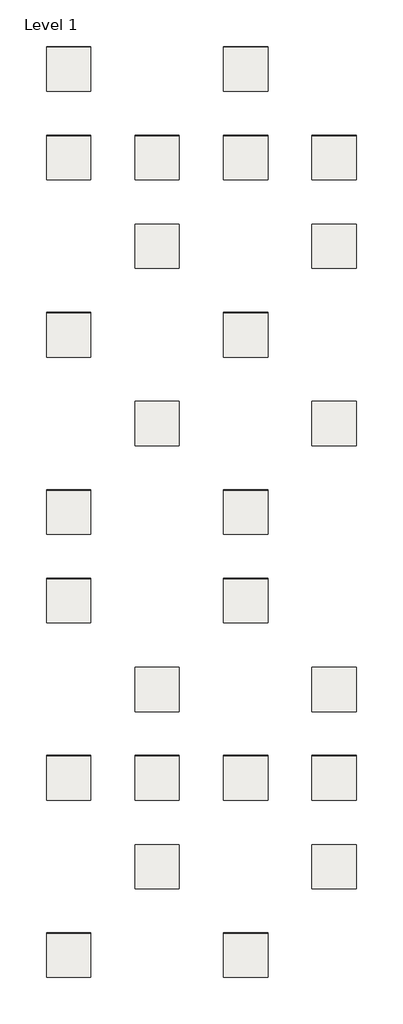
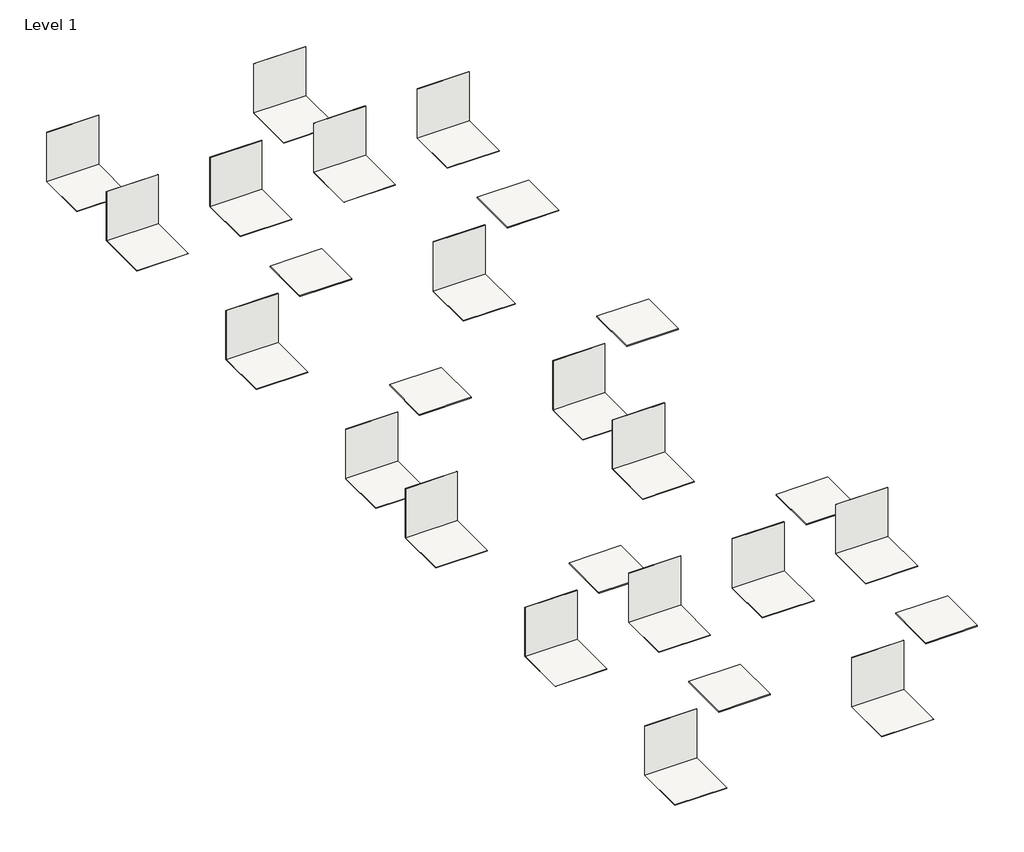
# One storey: 44 coverings.
"""IFC4 building model written with IfcOpenShell, lengths in millimetres."""

from ifc_helpers import new_model, si_unit, frame, origin, origin_with_axes, place, context, project, spatial, polyline, outline, extrude, element, save

model = new_model("IFC4")

# Units and contexts
model_context = context("Model", 3, world=origin())
ifc_project = project(units=[si_unit("LENGTHUNIT", "METRE", prefix="MILLI")], contexts=[model_context])

# Site, building, storey
site = spatial("IfcSite", under=ifc_project)
building = spatial("IfcBuilding", under=site)
storey = spatial("IfcBuildingStorey", under=building, Name="Level 1", Elevation=0.0)

# Coverings
placement = place(None, origin())
element("IfcCovering", 1, ObjectType="REVIGRES-LIMESTONE-BASE-29,5x59,2-RECT-MIST", at=placement, inside=storey, context=model_context, shape_type="SweptSolid", body=[
    extrude(outline(polyline([(-20577.1745975, 3937.5691029), (-21577.1745975, 3937.5691029), (-21577.1745975, 3946.0691029), (-20577.1745975, 3946.0691029), (-20577.1745975, 3937.5691029)])), origin_with_axes(), (0.0, 0.0, 1.0), 1000.0),
])
element("IfcCovering", 2, ObjectType="REVIGRES-LIMESTONE-BASE-29,5x59,2-RECT-MIST", at=placement, inside=storey, context=model_context, shape_type="SweptSolid", body=[
    extrude(outline(polyline([(-20577.1745975, 3937.5691029), (-20577.1745975, 2937.5691029), (-21577.1745975, 2937.5691029), (-21577.1745975, 3937.5691029), (-20577.1745975, 3937.5691029)])), frame((0.0, 0.0, -8.5), z_axis=(0.0, 0.0, 1.0), x_axis=(1.0, 0.0, 0.0)), (0.0, 0.0, 1.0), 8.5),
])
element("IfcCovering", 3, ObjectType="REVIGRES-LIMESTONE-BASE-59,2x59,2-RECT-MIST", at=placement, inside=storey, context=model_context, shape_type="SweptSolid", body=[
    extrude(outline(polyline([(-20577.1745975, 1937.5691029), (-21577.1745975, 1937.5691029), (-21577.1745975, 1946.0691029), (-20577.1745975, 1946.0691029), (-20577.1745975, 1937.5691029)])), origin_with_axes(), (0.0, 0.0, 1.0), 1000.0),
])
element("IfcCovering", 4, ObjectType="REVIGRES-LIMESTONE-BASE-59,2x59,2-RECT-MIST", at=placement, inside=storey, context=model_context, shape_type="SweptSolid", body=[
    extrude(outline(polyline([(-20577.1745975, 1937.5691029), (-20577.1745975, 937.5691029), (-21577.1745975, 937.5691029), (-21577.1745975, 1937.5691029), (-20577.1745975, 1937.5691029)])), frame((0.0, 0.0, -8.5), z_axis=(0.0, 0.0, 1.0), x_axis=(1.0, 0.0, 0.0)), (0.0, 0.0, 1.0), 8.5),
])
element("IfcCovering", 5, ObjectType="REVIGRES-LIMESTONE-BASE-44,35x88,9-RECT-MIST", at=placement, inside=storey, context=model_context, shape_type="SweptSolid", body=[
    extrude(outline(polyline([(-20577.1745975, -6063.4308971), (-21577.1745975, -6063.4308971), (-21577.1745975, -6052.9308971), (-20577.1745975, -6052.9308971), (-20577.1745975, -6063.4308971)])), origin_with_axes(), (0.0, 0.0, 1.0), 1000.0),
])
element("IfcCovering", 6, ObjectType="REVIGRES-LIMESTONE-BASE-44,35x88,9-RECT-MIST", at=placement, inside=storey, context=model_context, shape_type="SweptSolid", body=[
    extrude(outline(polyline([(-20577.1745975, -6063.4308971), (-20577.1745975, -7062.4308971), (-21577.1745975, -7062.4308971), (-21577.1745975, -6063.4308971), (-20577.1745975, -6063.4308971)])), frame((0.0, 0.0, -10.5), z_axis=(0.0, 0.0, 1.0), x_axis=(1.0, 0.0, 0.0)), (0.0, 0.0, 1.0), 10.5),
])
element("IfcCovering", 7, ObjectType="REVIGRES-LIMESTONE-BASE-88,9x88,9-RECT-MIST", at=placement, inside=storey, context=model_context, shape_type="SweptSolid", body=[
    extrude(outline(polyline([(-20577.1745975, -8063.4308971), (-21577.1745975, -8063.4308971), (-21577.1745975, -8052.9308971), (-20577.1745975, -8052.9308971), (-20577.1745975, -8063.4308971)])), origin_with_axes(), (0.0, 0.0, 1.0), 1000.0),
])
element("IfcCovering", 8, ObjectType="REVIGRES-LIMESTONE-BASE-88,9x88,9-RECT-MIST", at=placement, inside=storey, context=model_context, shape_type="SweptSolid", body=[
    extrude(outline(polyline([(-20577.1745975, -8063.4308971), (-20577.1745975, -9063.0808971), (-21577.1745975, -9063.0808971), (-21577.1745975, -8063.4308971), (-20577.1745975, -8063.4308971)])), frame((0.0, 0.0, -10.5), z_axis=(0.0, 0.0, 1.0), x_axis=(1.0, 0.0, 0.0)), (0.0, 0.0, 1.0), 10.5),
])
element("IfcCovering", 9, ObjectType="REVIGRES-LIMESTONE-BASE-59,2x118,6-RECT-MIST", at=placement, inside=storey, context=model_context, shape_type="SweptSolid", body=[
    extrude(outline(polyline([(-20577.1745975, -2063.0808971), (-21577.1745975, -2063.0808971), (-21577.1745975, -2053.2808971), (-20577.1745975, -2053.2808971), (-20577.1745975, -2063.0808971)])), origin_with_axes(), (0.0, 0.0, 1.0), 1000.0),
])
element("IfcCovering", 10, ObjectType="REVIGRES-LIMESTONE-BASE-59,2x118,6-RECT-MIST", at=placement, inside=storey, context=model_context, shape_type="SweptSolid", body=[
    extrude(outline(polyline([(-20577.1745975, -2063.0808971), (-20577.1745975, -3062.4308971), (-21577.1745975, -3062.4308971), (-21577.1745975, -2063.0808971), (-20577.1745975, -2063.0808971)])), frame((0.0, 0.0, -9.8), z_axis=(0.0, 0.0, 1.0), x_axis=(1.0, 0.0, 0.0)), (0.0, 0.0, 1.0), 9.8),
])
element("IfcCovering", 11, ObjectType="REVIGRES-LIMESTONE-BASE-29,5x59,2-RECT-SAND", at=placement, inside=storey, context=model_context, shape_type="SweptSolid", body=[
    extrude(outline(polyline([(-16577.1745975, 3937.5691029), (-17577.1745975, 3937.5691029), (-17577.1745975, 3946.0691029), (-16577.1745975, 3946.0691029), (-16577.1745975, 3937.5691029)])), origin_with_axes(), (0.0, 0.0, 1.0), 1000.0),
])
element("IfcCovering", 12, ObjectType="REVIGRES-LIMESTONE-BASE-29,5x59,2-RECT-SAND", at=placement, inside=storey, context=model_context, shape_type="SweptSolid", body=[
    extrude(outline(polyline([(-16577.1745975, 3937.5691029), (-16577.1745975, 2937.5691029), (-17577.1745975, 2937.5691029), (-17577.1745975, 3937.5691029), (-16577.1745975, 3937.5691029)])), frame((0.0, 0.0, -8.5), z_axis=(0.0, 0.0, 1.0), x_axis=(1.0, 0.0, 0.0)), (0.0, 0.0, 1.0), 8.5),
])
element("IfcCovering", 13, ObjectType="REVIGRES-LIMESTONE-BASE-59,2x59,2-RECT-SAND", at=placement, inside=storey, context=model_context, shape_type="SweptSolid", body=[
    extrude(outline(polyline([(-16577.1745975, 1937.5691029), (-17577.1745975, 1937.5691029), (-17577.1745975, 1946.0691029), (-16577.1745975, 1946.0691029), (-16577.1745975, 1937.5691029)])), origin_with_axes(), (0.0, 0.0, 1.0), 1000.0),
])
element("IfcCovering", 14, ObjectType="REVIGRES-LIMESTONE-BASE-59,2x59,2-RECT-SAND", at=placement, inside=storey, context=model_context, shape_type="SweptSolid", body=[
    extrude(outline(polyline([(-16577.1745975, 1937.5691029), (-16577.1745975, 937.5691029), (-17577.1745975, 937.5691029), (-17577.1745975, 1937.5691029), (-16577.1745975, 1937.5691029)])), frame((0.0, 0.0, -8.5), z_axis=(0.0, 0.0, 1.0), x_axis=(1.0, 0.0, 0.0)), (0.0, 0.0, 1.0), 8.5),
])
element("IfcCovering", 15, ObjectType="REVIGRES-LIMESTONE-BASE-44,35x88,9-RECT-SAND", at=placement, inside=storey, context=model_context, shape_type="SweptSolid", body=[
    extrude(outline(polyline([(-16577.1745975, -6063.4308971), (-17577.1745975, -6063.4308971), (-17577.1745975, -6052.9308971), (-16577.1745975, -6052.9308971), (-16577.1745975, -6063.4308971)])), origin_with_axes(), (0.0, 0.0, 1.0), 1000.0),
])
element("IfcCovering", 16, ObjectType="REVIGRES-LIMESTONE-BASE-44,35x88,9-RECT-SAND", at=placement, inside=storey, context=model_context, shape_type="SweptSolid", body=[
    extrude(outline(polyline([(-16577.1745975, -6063.4308971), (-16577.1745975, -7062.4308971), (-17577.1745975, -7062.4308971), (-17577.1745975, -6063.4308971), (-16577.1745975, -6063.4308971)])), frame((0.0, 0.0, -10.5), z_axis=(0.0, 0.0, 1.0), x_axis=(1.0, 0.0, 0.0)), (0.0, 0.0, 1.0), 10.5),
])
element("IfcCovering", 17, ObjectType="REVIGRES-LIMESTONE-BASE-88,9x88,9-RECT-SAND", at=placement, inside=storey, context=model_context, shape_type="SweptSolid", body=[
    extrude(outline(polyline([(-16577.1745975, -8063.4308971), (-17577.1745975, -8063.4308971), (-17577.1745975, -8052.9308971), (-16577.1745975, -8052.9308971), (-16577.1745975, -8063.4308971)])), origin_with_axes(), (0.0, 0.0, 1.0), 1000.0),
])
element("IfcCovering", 18, ObjectType="REVIGRES-LIMESTONE-BASE-88,9x88,9-RECT-SAND", at=placement, inside=storey, context=model_context, shape_type="SweptSolid", body=[
    extrude(outline(polyline([(-16577.1745975, -8063.4308971), (-16577.1745975, -9063.0808971), (-17577.1745975, -9063.0808971), (-17577.1745975, -8063.4308971), (-16577.1745975, -8063.4308971)])), frame((0.0, 0.0, -10.5), z_axis=(0.0, 0.0, 1.0), x_axis=(1.0, 0.0, 0.0)), (0.0, 0.0, 1.0), 10.5),
])
element("IfcCovering", 19, ObjectType="REVIGRES-LIMESTONE-BASE-59,2x118,6-RECT-SAND", at=placement, inside=storey, context=model_context, shape_type="SweptSolid", body=[
    extrude(outline(polyline([(-16577.1745975, -2063.0808971), (-17577.1745975, -2063.0808971), (-17577.1745975, -2053.2808971), (-16577.1745975, -2053.2808971), (-16577.1745975, -2063.0808971)])), origin_with_axes(), (0.0, 0.0, 1.0), 1000.0),
])
element("IfcCovering", 20, ObjectType="REVIGRES-LIMESTONE-BASE-59,2x118,6-RECT-SAND", at=placement, inside=storey, context=model_context, shape_type="SweptSolid", body=[
    extrude(outline(polyline([(-16577.1745975, -2063.0808971), (-16577.1745975, -3062.4308971), (-17577.1745975, -3062.4308971), (-17577.1745975, -2063.0808971), (-16577.1745975, -2063.0808971)])), frame((0.0, 0.0, -9.8), z_axis=(0.0, 0.0, 1.0), x_axis=(1.0, 0.0, 0.0)), (0.0, 0.0, 1.0), 9.8),
])
element("IfcCovering", 21, ObjectType="REVIGRES-LIMESTONE-BASE-59,2x59,2-ANTISLIPRECT-SAND", at=placement, inside=storey, context=model_context, shape_type="SweptSolid", body=[
    extrude(outline(polyline([(-14577.1745975, 1937.5691029), (-15577.1745975, 1937.5691029), (-15577.1745975, 1946.0691029), (-14577.1745975, 1946.0691029), (-14577.1745975, 1937.5691029)])), origin_with_axes(), (0.0, 0.0, 1.0), 1000.0),
])
element("IfcCovering", 22, ObjectType="REVIGRES-LIMESTONE-BASE-59,2x59,2-ANTISLIPRECT-SAND", at=placement, inside=storey, context=model_context, shape_type="SweptSolid", body=[
    extrude(outline(polyline([(-14577.1745975, 1937.5691029), (-14577.1745975, 937.5691029), (-15577.1745975, 937.5691029), (-15577.1745975, 1937.5691029), (-14577.1745975, 1937.5691029)])), frame((0.0, 0.0, -8.5), z_axis=(0.0, 0.0, 1.0), x_axis=(1.0, 0.0, 0.0)), (0.0, 0.0, 1.0), 8.5),
])
element("IfcCovering", 23, ObjectType="REVIGRES-LIMESTONE-BASE-59,2x59,2-ANTISLIPRECT-MIST", at=placement, inside=storey, context=model_context, shape_type="SweptSolid", body=[
    extrude(outline(polyline([(-18577.1745975, 1937.5691029), (-19577.1745975, 1937.5691029), (-19577.1745975, 1946.0691029), (-18577.1745975, 1946.0691029), (-18577.1745975, 1937.5691029)])), origin_with_axes(), (0.0, 0.0, 1.0), 1000.0),
])
element("IfcCovering", 24, ObjectType="REVIGRES-LIMESTONE-BASE-59,2x59,2-ANTISLIPRECT-MIST", at=placement, inside=storey, context=model_context, shape_type="SweptSolid", body=[
    extrude(outline(polyline([(-18577.1745975, 1937.5691029), (-18577.1745975, 937.5691029), (-19577.1745975, 937.5691029), (-19577.1745975, 1937.5691029), (-18577.1745975, 1937.5691029)])), frame((0.0, 0.0, -8.5), z_axis=(0.0, 0.0, 1.0), x_axis=(1.0, 0.0, 0.0)), (0.0, 0.0, 1.0), 8.5),
])
element("IfcCovering", 25, ObjectType="REVIGRES-LIMESTONE-BASE-118,6x118,6-RECT-MIST", at=placement, inside=storey, context=model_context, shape_type="SweptSolid", body=[
    extrude(outline(polyline([(-20577.1745975, -12062.6808971), (-21577.1745975, -12062.6808971), (-21577.1745975, -12053.6808971), (-20577.1745975, -12053.6808971), (-20577.1745975, -12062.6808971)])), origin_with_axes(), (0.0, 0.0, 1.0), 1000.0),
])
element("IfcCovering", 26, ObjectType="REVIGRES-LIMESTONE-BASE-118,6x118,6-RECT-MIST", at=placement, inside=storey, context=model_context, shape_type="SweptSolid", body=[
    extrude(outline(polyline([(-20577.1745975, -12062.6808971), (-20577.1745975, -13063.0808971), (-21577.1745975, -13063.0808971), (-21577.1745975, -12062.6808971), (-20577.1745975, -12062.6808971)])), frame((0.0, 0.0, -9.0), z_axis=(0.0, 0.0, 1.0), x_axis=(1.0, 0.0, 0.0)), (0.0, 0.0, 1.0), 9.0),
])
element("IfcCovering", 27, ObjectType="REVIGRES-LIMESTONE-BASE-118,6x118,6-RECT-SAND", at=placement, inside=storey, context=model_context, shape_type="SweptSolid", body=[
    extrude(outline(polyline([(-16577.1745975, -12062.6808971), (-17577.1745975, -12062.6808971), (-17577.1745975, -12053.6808971), (-16577.1745975, -12053.6808971), (-16577.1745975, -12062.6808971)])), origin_with_axes(), (0.0, 0.0, 1.0), 1000.0),
])
element("IfcCovering", 28, ObjectType="REVIGRES-LIMESTONE-BASE-118,6x118,6-RECT-SAND", at=placement, inside=storey, context=model_context, shape_type="SweptSolid", body=[
    extrude(outline(polyline([(-16577.1745975, -12062.6808971), (-16577.1745975, -13063.0808971), (-17577.1745975, -13063.0808971), (-17577.1745975, -12062.6808971), (-16577.1745975, -12062.6808971)])), frame((0.0, 0.0, -9.0), z_axis=(0.0, 0.0, 1.0), x_axis=(1.0, 0.0, 0.0)), (0.0, 0.0, 1.0), 9.0),
])
element("IfcCovering", 29, ObjectType="REVIGRES-LIMESTONE-BASE-118,6x277,8-RECT-MIST", at=placement, inside=storey, context=model_context, shape_type="SweptSolid", body=[
    extrude(outline(polyline([(-20577.1745975, -16061.1808971), (-21577.1745975, -16061.1808971), (-21577.1745975, -16055.1808971), (-20577.1745975, -16055.1808971), (-20577.1745975, -16061.1808971)])), origin_with_axes(), (0.0, 0.0, 1.0), 1000.0),
])
element("IfcCovering", 30, ObjectType="REVIGRES-LIMESTONE-BASE-118,6x277,8-RECT-MIST", at=placement, inside=storey, context=model_context, shape_type="SweptSolid", body=[
    extrude(outline(polyline([(-20577.1745975, -16061.1808971), (-20577.1745975, -17063.0808971), (-21577.1745975, -17063.0808971), (-21577.1745975, -16061.1808971), (-20577.1745975, -16061.1808971)])), frame((0.0, 0.0, -6.0), z_axis=(0.0, 0.0, 1.0), x_axis=(1.0, 0.0, 0.0)), (0.0, 0.0, 1.0), 6.0),
])
element("IfcCovering", 31, ObjectType="REVIGRES-LIMESTONE-BASE-118,6x277,8-RECT-SAND", at=placement, inside=storey, context=model_context, shape_type="SweptSolid", body=[
    extrude(outline(polyline([(-16577.1745975, -16061.1808971), (-17577.1745975, -16061.1808971), (-17577.1745975, -16055.1808971), (-16577.1745975, -16055.1808971), (-16577.1745975, -16061.1808971)])), origin_with_axes(), (0.0, 0.0, 1.0), 1000.0),
])
element("IfcCovering", 32, ObjectType="REVIGRES-LIMESTONE-BASE-118,6x277,8-RECT-SAND", at=placement, inside=storey, context=model_context, shape_type="SweptSolid", body=[
    extrude(outline(polyline([(-16577.1745975, -16061.1808971), (-16577.1745975, -17063.0808971), (-17577.1745975, -17063.0808971), (-17577.1745975, -16061.1808971), (-16577.1745975, -16061.1808971)])), frame((0.0, 0.0, -6.0), z_axis=(0.0, 0.0, 1.0), x_axis=(1.0, 0.0, 0.0)), (0.0, 0.0, 1.0), 6.0),
])
element("IfcCovering", 33, ObjectType="REVIGRES-LIMESTONE-BASE-118,6x118,6-ANTISLIPRECT-SAND", at=placement, inside=storey, context=model_context, shape_type="SweptSolid", body=[
    extrude(outline(polyline([(-14577.1745975, -12062.6808971), (-15577.1745975, -12062.6808971), (-15577.1745975, -12053.6808971), (-14577.1745975, -12053.6808971), (-14577.1745975, -12062.6808971)])), origin_with_axes(), (0.0, 0.0, 1.0), 1000.0),
])
element("IfcCovering", 34, ObjectType="REVIGRES-LIMESTONE-BASE-118,6x118,6-ANTISLIPRECT-SAND", at=placement, inside=storey, context=model_context, shape_type="SweptSolid", body=[
    extrude(outline(polyline([(-14577.1745975, -12062.6808971), (-14577.1745975, -13062.4308971), (-15577.1745975, -13062.4308971), (-15577.1745975, -12062.6808971), (-14577.1745975, -12062.6808971)])), frame((0.0, 0.0, -9.0), z_axis=(0.0, 0.0, 1.0), x_axis=(1.0, 0.0, 0.0)), (0.0, 0.0, 1.0), 9.0),
])
element("IfcCovering", 35, ObjectType="REVIGRES-LIMESTONE-BASE-118,6x118,6-ANTISLIPRECT-MIST", at=placement, inside=storey, context=model_context, shape_type="SweptSolid", body=[
    extrude(outline(polyline([(-18577.1745975, -12062.6808971), (-19577.1745975, -12062.6808971), (-19577.1745975, -12053.6808971), (-18577.1745975, -12053.6808971), (-18577.1745975, -12062.6808971)])), origin_with_axes(), (0.0, 0.0, 1.0), 1000.0),
])
element("IfcCovering", 36, ObjectType="REVIGRES-LIMESTONE-BASE-118,6x118,6-ANTISLIPRECT-MIST", at=placement, inside=storey, context=model_context, shape_type="SweptSolid", body=[
    extrude(outline(polyline([(-18577.1745975, -12062.6808971), (-18577.1745975, -13062.4308971), (-19577.1745975, -13062.4308971), (-19577.1745975, -12062.6808971), (-18577.1745975, -12062.6808971)])), frame((0.0, 0.0, -9.0), z_axis=(0.0, 0.0, 1.0), x_axis=(1.0, 0.0, 0.0)), (0.0, 0.0, 1.0), 9.0),
])
element("IfcCovering", 37, ObjectType="REVIGRES-LIMESTONE-BASE-59,2x59,2-ANTISLIPRECT-SAND-TECH20", at=placement, inside=storey, context=model_context, shape_type="SweptSolid", body=[
    extrude(outline(polyline([(-14577.1745975, -63.0808971), (-14577.1745975, -1062.4308971), (-15577.1745975, -1062.4308971), (-15577.1745975, -63.0808971), (-14577.1745975, -63.0808971)])), frame((0.0, 0.0, -20.0), z_axis=(0.0, 0.0, 1.0), x_axis=(1.0, 0.0, 0.0)), (0.0, 0.0, 1.0), 20.0),
])
element("IfcCovering", 38, ObjectType="REVIGRES-LIMESTONE-BASE-59,2x59,2-ANTISLIPRECT-MIST-TECH20", at=placement, inside=storey, context=model_context, shape_type="SweptSolid", body=[
    extrude(outline(polyline([(-18577.1745975, -63.0808971), (-18577.1745975, -1062.4308971), (-19577.1745975, -1062.4308971), (-19577.1745975, -63.0808971), (-18577.1745975, -63.0808971)])), frame((0.0, 0.0, -20.0), z_axis=(0.0, 0.0, 1.0), x_axis=(1.0, 0.0, 0.0)), (0.0, 0.0, 1.0), 20.0),
])
element("IfcCovering", 39, ObjectType="REVIGRES-LIMESTONE-BASE-59,2x118,6-ANTISLIPRECT-MIST-TECH20", at=placement, inside=storey, context=model_context, shape_type="SweptSolid", body=[
    extrude(outline(polyline([(-18577.1745975, -4063.0808971), (-18577.1745975, -5062.4308971), (-19577.1745975, -5062.4308971), (-19577.1745975, -4063.0808971), (-18577.1745975, -4063.0808971)])), frame((0.0, 0.0, -20.0), z_axis=(0.0, 0.0, 1.0), x_axis=(1.0, 0.0, 0.0)), (0.0, 0.0, 1.0), 20.0),
])
element("IfcCovering", 40, ObjectType="REVIGRES-LIMESTONE-BASE-59,2x118,6-ANTISLIPRECT-SAND-TECH20", at=placement, inside=storey, context=model_context, shape_type="SweptSolid", body=[
    extrude(outline(polyline([(-14577.1745975, -4063.0808971), (-14577.1745975, -5062.4308971), (-15577.1745975, -5062.4308971), (-15577.1745975, -4063.0808971), (-14577.1745975, -4063.0808971)])), frame((0.0, 0.0, -20.0), z_axis=(0.0, 0.0, 1.0), x_axis=(1.0, 0.0, 0.0)), (0.0, 0.0, 1.0), 20.0),
])
element("IfcCovering", 41, ObjectType="REVIGRES-LIMESTONE-BASE-88,9x88,9-ANTISLIPRECT-MIST-TECH20", at=placement, inside=storey, context=model_context, shape_type="SweptSolid", body=[
    extrude(outline(polyline([(-18577.1745975, -10063.4308971), (-18577.1745975, -11063.0808971), (-19577.1745975, -11063.0808971), (-19577.1745975, -10063.4308971), (-18577.1745975, -10063.4308971)])), frame((0.0, 0.0, -20.0), z_axis=(0.0, 0.0, 1.0), x_axis=(1.0, 0.0, 0.0)), (0.0, 0.0, 1.0), 20.0),
])
element("IfcCovering", 42, ObjectType="REVIGRES-LIMESTONE-BASE-88,9x88,9-ANTISLIPRECT-SAND-TECH20", at=placement, inside=storey, context=model_context, shape_type="SweptSolid", body=[
    extrude(outline(polyline([(-14577.1745975, -10063.4308971), (-14577.1745975, -11063.0808971), (-15577.1745975, -11063.0808971), (-15577.1745975, -10063.4308971), (-14577.1745975, -10063.4308971)])), frame((0.0, 0.0, -20.0), z_axis=(0.0, 0.0, 1.0), x_axis=(1.0, 0.0, 0.0)), (0.0, 0.0, 1.0), 20.0),
])
element("IfcCovering", 43, ObjectType="REVIGRES-LIMESTONE-BASE-118,6x118,6-ANTISLIPRECT-SAND_TECH20", at=placement, inside=storey, context=model_context, shape_type="SweptSolid", body=[
    extrude(outline(polyline([(-14577.1745975, -14062.6808971), (-14577.1745975, -15062.4308971), (-15577.1745975, -15062.4308971), (-15577.1745975, -14062.6808971), (-14577.1745975, -14062.6808971)])), frame((0.0, 0.0, -20.0), z_axis=(0.0, 0.0, 1.0), x_axis=(1.0, 0.0, 0.0)), (0.0, 0.0, 1.0), 20.0),
])
element("IfcCovering", 44, ObjectType="REVIGRES-LIMESTONE-BASE-118,6x118,6-ANTISLIPRECT-MIST_TECH20", at=placement, inside=storey, context=model_context, shape_type="SweptSolid", body=[
    extrude(outline(polyline([(-18577.1745975, -14062.6808971), (-18577.1745975, -15062.4308971), (-19577.1745975, -15062.4308971), (-19577.1745975, -14062.6808971), (-18577.1745975, -14062.6808971)])), frame((0.0, 0.0, -20.0), z_axis=(0.0, 0.0, 1.0), x_axis=(1.0, 0.0, 0.0)), (0.0, 0.0, 1.0), 20.0),
])

save(model, "model.ifc")
